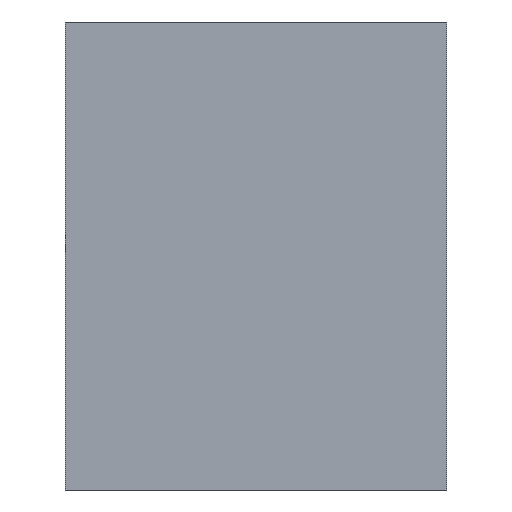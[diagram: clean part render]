
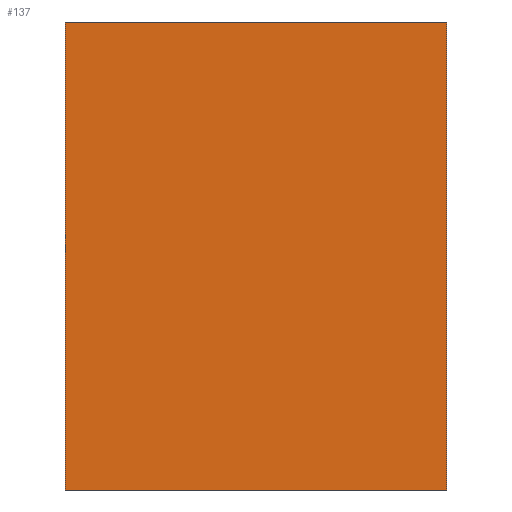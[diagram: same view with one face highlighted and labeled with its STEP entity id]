
A CAD part, front view. The second image highlights one B-rep face of the part: STEP entity #137.
In plain terms, the highlighted planar face has unit normal (0, -1, 0).
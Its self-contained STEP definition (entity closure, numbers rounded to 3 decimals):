
#21 = EDGE_CURVE('',#22,#24,#26,.T.);
#22 = VERTEX_POINT('',#23);
#23 = CARTESIAN_POINT('',(-12.5,-5.25,-15.35));
#24 = VERTEX_POINT('',#25);
#25 = CARTESIAN_POINT('',(-12.5,-5.25,15.35));
#26 = SURFACE_CURVE('',#27,(#31,#43),.PCURVE_S1.);
#27 = LINE('',#28,#29);
#28 = CARTESIAN_POINT('',(-12.5,-5.25,-15.35));
#29 = VECTOR('',#30,1.);
#30 = DIRECTION('',(0.,0.,1.));
#31 = PCURVE('',#32,#37);
#32 = PLANE('',#33);
#33 = AXIS2_PLACEMENT_3D('',#34,#35,#36);
#34 = CARTESIAN_POINT('',(-12.5,-5.25,-15.35));
#35 = DIRECTION('',(1.,0.,0.));
#36 = DIRECTION('',(0.,0.,1.));
#37 = DEFINITIONAL_REPRESENTATION('',(#38),#42);
#38 = LINE('',#39,#40);
#39 = CARTESIAN_POINT('',(0.,0.));
#40 = VECTOR('',#41,1.);
#41 = DIRECTION('',(1.,0.));
#42 = ( GEOMETRIC_REPRESENTATION_CONTEXT(2) 
PARAMETRIC_REPRESENTATION_CONTEXT() REPRESENTATION_CONTEXT('2D SPACE',''
  ) );
#43 = PCURVE('',#44,#49);
#44 = PLANE('',#45);
#45 = AXIS2_PLACEMENT_3D('',#46,#47,#48);
#46 = CARTESIAN_POINT('',(-12.5,-5.25,-15.35));
#47 = DIRECTION('',(0.,1.,0.));
#48 = DIRECTION('',(0.,0.,1.));
#49 = DEFINITIONAL_REPRESENTATION('',(#50),#54);
#50 = LINE('',#51,#52);
#51 = CARTESIAN_POINT('',(0.,0.));
#52 = VECTOR('',#53,1.);
#53 = DIRECTION('',(1.,0.));
#54 = ( GEOMETRIC_REPRESENTATION_CONTEXT(2) 
PARAMETRIC_REPRESENTATION_CONTEXT() REPRESENTATION_CONTEXT('2D SPACE',''
  ) );
#72 = PLANE('',#73);
#73 = AXIS2_PLACEMENT_3D('',#74,#75,#76);
#74 = CARTESIAN_POINT('',(-12.5,-5.25,-15.35));
#75 = DIRECTION('',(0.,0.,1.));
#76 = DIRECTION('',(1.,0.,0.));
#126 = PLANE('',#127);
#127 = AXIS2_PLACEMENT_3D('',#128,#129,#130);
#128 = CARTESIAN_POINT('',(-12.5,-5.25,15.35));
#129 = DIRECTION('',(0.,0.,1.));
#130 = DIRECTION('',(1.,0.,0.));
#137 = ADVANCED_FACE('',(#138),#44,.F.);
#138 = FACE_BOUND('',#139,.F.);
#139 = EDGE_LOOP('',(#140,#163,#164,#187));
#140 = ORIENTED_EDGE('',*,*,#141,.F.);
#141 = EDGE_CURVE('',#22,#142,#144,.T.);
#142 = VERTEX_POINT('',#143);
#143 = CARTESIAN_POINT('',(12.5,-5.25,-15.35));
#144 = SURFACE_CURVE('',#145,(#149,#156),.PCURVE_S1.);
#145 = LINE('',#146,#147);
#146 = CARTESIAN_POINT('',(-12.5,-5.25,-15.35));
#147 = VECTOR('',#148,1.);
#148 = DIRECTION('',(1.,0.,0.));
#149 = PCURVE('',#44,#150);
#150 = DEFINITIONAL_REPRESENTATION('',(#151),#155);
#151 = LINE('',#152,#153);
#152 = CARTESIAN_POINT('',(0.,0.));
#153 = VECTOR('',#154,1.);
#154 = DIRECTION('',(0.,1.));
#155 = ( GEOMETRIC_REPRESENTATION_CONTEXT(2) 
PARAMETRIC_REPRESENTATION_CONTEXT() REPRESENTATION_CONTEXT('2D SPACE',''
  ) );
#156 = PCURVE('',#72,#157);
#157 = DEFINITIONAL_REPRESENTATION('',(#158),#162);
#158 = LINE('',#159,#160);
#159 = CARTESIAN_POINT('',(0.,0.));
#160 = VECTOR('',#161,1.);
#161 = DIRECTION('',(1.,0.));
#162 = ( GEOMETRIC_REPRESENTATION_CONTEXT(2) 
PARAMETRIC_REPRESENTATION_CONTEXT() REPRESENTATION_CONTEXT('2D SPACE',''
  ) );
#163 = ORIENTED_EDGE('',*,*,#21,.T.);
#164 = ORIENTED_EDGE('',*,*,#165,.T.);
#165 = EDGE_CURVE('',#24,#166,#168,.T.);
#166 = VERTEX_POINT('',#167);
#167 = CARTESIAN_POINT('',(12.5,-5.25,15.35));
#168 = SURFACE_CURVE('',#169,(#173,#180),.PCURVE_S1.);
#169 = LINE('',#170,#171);
#170 = CARTESIAN_POINT('',(-12.5,-5.25,15.35));
#171 = VECTOR('',#172,1.);
#172 = DIRECTION('',(1.,0.,0.));
#173 = PCURVE('',#44,#174);
#174 = DEFINITIONAL_REPRESENTATION('',(#175),#179);
#175 = LINE('',#176,#177);
#176 = CARTESIAN_POINT('',(30.7,0.));
#177 = VECTOR('',#178,1.);
#178 = DIRECTION('',(0.,1.));
#179 = ( GEOMETRIC_REPRESENTATION_CONTEXT(2) 
PARAMETRIC_REPRESENTATION_CONTEXT() REPRESENTATION_CONTEXT('2D SPACE',''
  ) );
#180 = PCURVE('',#126,#181);
#181 = DEFINITIONAL_REPRESENTATION('',(#182),#186);
#182 = LINE('',#183,#184);
#183 = CARTESIAN_POINT('',(0.,0.));
#184 = VECTOR('',#185,1.);
#185 = DIRECTION('',(1.,0.));
#186 = ( GEOMETRIC_REPRESENTATION_CONTEXT(2) 
PARAMETRIC_REPRESENTATION_CONTEXT() REPRESENTATION_CONTEXT('2D SPACE',''
  ) );
#187 = ORIENTED_EDGE('',*,*,#188,.F.);
#188 = EDGE_CURVE('',#142,#166,#189,.T.);
#189 = SURFACE_CURVE('',#190,(#194,#201),.PCURVE_S1.);
#190 = LINE('',#191,#192);
#191 = CARTESIAN_POINT('',(12.5,-5.25,-15.35));
#192 = VECTOR('',#193,1.);
#193 = DIRECTION('',(0.,0.,1.));
#194 = PCURVE('',#44,#195);
#195 = DEFINITIONAL_REPRESENTATION('',(#196),#200);
#196 = LINE('',#197,#198);
#197 = CARTESIAN_POINT('',(0.,25.));
#198 = VECTOR('',#199,1.);
#199 = DIRECTION('',(1.,0.));
#200 = ( GEOMETRIC_REPRESENTATION_CONTEXT(2) 
PARAMETRIC_REPRESENTATION_CONTEXT() REPRESENTATION_CONTEXT('2D SPACE',''
  ) );
#201 = PCURVE('',#202,#207);
#202 = PLANE('',#203);
#203 = AXIS2_PLACEMENT_3D('',#204,#205,#206);
#204 = CARTESIAN_POINT('',(12.5,-5.25,-15.35));
#205 = DIRECTION('',(1.,0.,0.));
#206 = DIRECTION('',(0.,0.,1.));
#207 = DEFINITIONAL_REPRESENTATION('',(#208),#212);
#208 = LINE('',#209,#210);
#209 = CARTESIAN_POINT('',(0.,0.));
#210 = VECTOR('',#211,1.);
#211 = DIRECTION('',(1.,0.));
#212 = ( GEOMETRIC_REPRESENTATION_CONTEXT(2) 
PARAMETRIC_REPRESENTATION_CONTEXT() REPRESENTATION_CONTEXT('2D SPACE',''
  ) );
